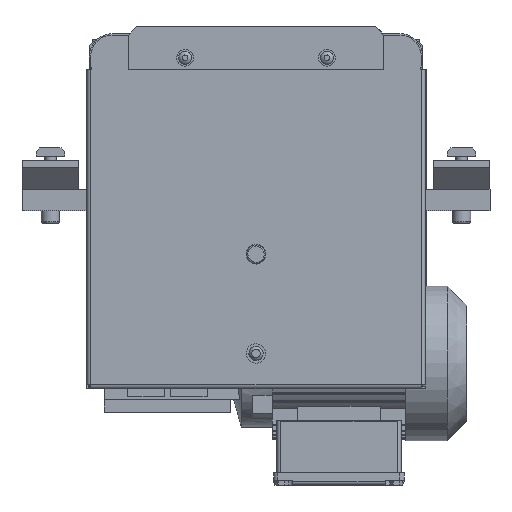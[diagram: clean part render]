
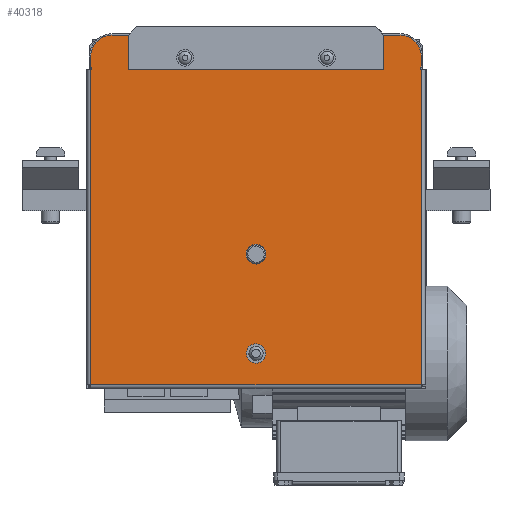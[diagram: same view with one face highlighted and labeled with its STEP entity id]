
A CAD part, front view. The second image highlights one B-rep face of the part: STEP entity #40318.
In plain terms, the highlighted planar face has unit normal (0, -1, 0).
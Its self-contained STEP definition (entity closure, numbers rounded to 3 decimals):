
#1312=LINE('',#60435,#5152);
#1315=LINE('',#60440,#5155);
#1317=LINE('',#60444,#5157);
#1319=LINE('',#60447,#5159);
#1640=LINE('',#61383,#5480);
#1641=LINE('',#61387,#5481);
#1642=LINE('',#61389,#5482);
#1643=LINE('',#61391,#5483);
#1644=LINE('',#61395,#5484);
#1645=LINE('',#61398,#5485);
#5152=VECTOR('',#48457,180.);
#5155=VECTOR('',#48462,15.);
#5157=VECTOR('',#48466,180.);
#5159=VECTOR('',#48470,15.);
#5480=VECTOR('',#49239,7.5);
#5481=VECTOR('',#49242,222.5);
#5482=VECTOR('',#49243,233.);
#5483=VECTOR('',#49244,222.5);
#5484=VECTOR('',#49247,7.5);
#5485=VECTOR('',#49250,203.);
#8927=FACE_BOUND('',#12190,.T.);
#8928=FACE_BOUND('',#12191,.T.);
#8929=FACE_BOUND('',#12192,.T.);
#9875=FACE_OUTER_BOUND('',#12189,.T.);
#12189=EDGE_LOOP('',(#28665,#28666,#28667,#28668,#28669,#28670,#28671,#28672,
#28673,#28674));
#12190=EDGE_LOOP('',(#28675,#28676,#28677,#28678));
#12191=EDGE_LOOP('',(#28679));
#12192=EDGE_LOOP('',(#28680));
#14157=CIRCLE('',#42713,6.8);
#14235=CIRCLE('',#42901,15.);
#14236=CIRCLE('',#42902,0.75);
#14237=CIRCLE('',#42903,0.75);
#14238=CIRCLE('',#42904,15.);
#14239=CIRCLE('',#42905,7.);
#16476=VERTEX_POINT('',#60433);
#16477=VERTEX_POINT('',#60434);
#16478=VERTEX_POINT('',#60439);
#16479=VERTEX_POINT('',#60443);
#16513=VERTEX_POINT('',#60545);
#16812=VERTEX_POINT('',#61379);
#16813=VERTEX_POINT('',#61380);
#16814=VERTEX_POINT('',#61382);
#16815=VERTEX_POINT('',#61384);
#16816=VERTEX_POINT('',#61386);
#16817=VERTEX_POINT('',#61388);
#16818=VERTEX_POINT('',#61390);
#16819=VERTEX_POINT('',#61392);
#16820=VERTEX_POINT('',#61394);
#16821=VERTEX_POINT('',#61396);
#16822=VERTEX_POINT('',#61399);
#20782=EDGE_CURVE('',#16476,#16477,#1312,.T.);
#20785=EDGE_CURVE('',#16478,#16476,#1315,.T.);
#20787=EDGE_CURVE('',#16479,#16478,#1317,.T.);
#20789=EDGE_CURVE('',#16477,#16479,#1319,.T.);
#20832=EDGE_CURVE('',#16513,#16513,#14157,.T.);
#21227=EDGE_CURVE('',#16812,#16813,#14235,.T.);
#21228=EDGE_CURVE('',#16813,#16814,#1640,.T.);
#21229=EDGE_CURVE('',#16814,#16815,#14236,.T.);
#21230=EDGE_CURVE('',#16815,#16816,#1641,.T.);
#21231=EDGE_CURVE('',#16816,#16817,#1642,.T.);
#21232=EDGE_CURVE('',#16817,#16818,#1643,.T.);
#21233=EDGE_CURVE('',#16818,#16819,#14237,.T.);
#21234=EDGE_CURVE('',#16819,#16820,#1644,.T.);
#21235=EDGE_CURVE('',#16820,#16821,#14238,.T.);
#21236=EDGE_CURVE('',#16812,#16821,#1645,.T.);
#21237=EDGE_CURVE('',#16822,#16822,#14239,.T.);
#28665=ORIENTED_EDGE('',*,*,#21227,.T.);
#28666=ORIENTED_EDGE('',*,*,#21228,.T.);
#28667=ORIENTED_EDGE('',*,*,#21229,.T.);
#28668=ORIENTED_EDGE('',*,*,#21230,.T.);
#28669=ORIENTED_EDGE('',*,*,#21231,.T.);
#28670=ORIENTED_EDGE('',*,*,#21232,.T.);
#28671=ORIENTED_EDGE('',*,*,#21233,.T.);
#28672=ORIENTED_EDGE('',*,*,#21234,.T.);
#28673=ORIENTED_EDGE('',*,*,#21235,.T.);
#28674=ORIENTED_EDGE('',*,*,#21236,.F.);
#28675=ORIENTED_EDGE('',*,*,#20782,.T.);
#28676=ORIENTED_EDGE('',*,*,#20789,.T.);
#28677=ORIENTED_EDGE('',*,*,#20787,.T.);
#28678=ORIENTED_EDGE('',*,*,#20785,.T.);
#28679=ORIENTED_EDGE('',*,*,#20832,.T.);
#28680=ORIENTED_EDGE('',*,*,#21237,.T.);
#36785=PLANE('',#42900);
#40318=ADVANCED_FACE('',(#9875,#8927,#8928,#8929),#36785,.T.);
#42713=AXIS2_PLACEMENT_3D('',#60546,#48570,#48571);
#42900=AXIS2_PLACEMENT_3D('',#61378,#49235,#49236);
#42901=AXIS2_PLACEMENT_3D('',#61381,#49237,#49238);
#42902=AXIS2_PLACEMENT_3D('',#61385,#49240,#49241);
#42903=AXIS2_PLACEMENT_3D('',#61393,#49245,#49246);
#42904=AXIS2_PLACEMENT_3D('',#61397,#49248,#49249);
#42905=AXIS2_PLACEMENT_3D('',#61400,#49251,#49252);
#48457=DIRECTION('',(1.,0.,0.));
#48462=DIRECTION('',(0.,0.,1.));
#48466=DIRECTION('',(-1.,0.,0.));
#48470=DIRECTION('',(0.,0.,-1.));
#48570=DIRECTION('center_axis',(0.,1.,0.));
#48571=DIRECTION('ref_axis',(-0.536,0.,-0.844));
#49235=DIRECTION('center_axis',(0.,-1.,0.));
#49236=DIRECTION('ref_axis',(-1.,0.,0.));
#49237=DIRECTION('center_axis',(0.,-1.,0.));
#49238=DIRECTION('ref_axis',(1.,0.,0.));
#49239=DIRECTION('',(0.,0.,-1.));
#49240=DIRECTION('center_axis',(0.,1.,0.));
#49241=DIRECTION('ref_axis',(0.,0.,
-1.));
#49242=DIRECTION('',(0.,0.,-1.));
#49243=DIRECTION('',(1.,0.,0.));
#49244=DIRECTION('',(0.,0.,1.));
#49245=DIRECTION('center_axis',(0.,1.,0.));
#49246=DIRECTION('ref_axis',(0.,0.,
-1.));
#49247=DIRECTION('',(0.,0.,1.));
#49248=DIRECTION('center_axis',(0.,-1.,0.));
#49249=DIRECTION('ref_axis',(-1.,0.,0.));
#49250=DIRECTION('',(1.,0.,0.));
#49251=DIRECTION('center_axis',(0.,1.,0.));
#49252=DIRECTION('ref_axis',(-1.,0.,0.));
#60433=CARTESIAN_POINT('',(-90.,-159.,79.675));
#60434=CARTESIAN_POINT('',(90.,-159.,79.675));
#60435=CARTESIAN_POINT('',(-45.,-159.,79.675));
#60439=CARTESIAN_POINT('',(-90.,-159.,64.675));
#60440=CARTESIAN_POINT('',(-90.,-159.,21.813));
#60443=CARTESIAN_POINT('',(90.,-159.,64.675));
#60444=CARTESIAN_POINT('',(-45.,-159.,64.675));
#60447=CARTESIAN_POINT('',(90.,-159.,21.813));
#60545=CARTESIAN_POINT('',(-3.643,-159.,-141.542));
#60546=CARTESIAN_POINT('Origin',(0.,-159.,
-135.8));
#61378=CARTESIAN_POINT('Origin',(0.,-159.,
-36.05));
#61379=CARTESIAN_POINT('',(-101.5,-159.,88.7));
#61380=CARTESIAN_POINT('',(-116.5,-159.,73.7));
#61381=CARTESIAN_POINT('Origin',(-101.5,-159.,73.7));
#61382=CARTESIAN_POINT('',(-116.5,-159.,66.2));
#61383=CARTESIAN_POINT('',(-116.5,-159.,15.075));
#61384=CARTESIAN_POINT('',(-116.5,-159.,64.7));
#61385=CARTESIAN_POINT('Origin',(-116.5,-159.,65.45));
#61386=CARTESIAN_POINT('',(-116.5,-159.,-157.8));
#61387=CARTESIAN_POINT('',(-116.5,-159.,14.325));
#61388=CARTESIAN_POINT('',(116.5,-159.,-157.8));
#61389=CARTESIAN_POINT('',(-58.25,-159.,-157.8));
#61390=CARTESIAN_POINT('',(116.5,-159.,64.7));
#61391=CARTESIAN_POINT('',(116.5,-159.,-96.925));
#61392=CARTESIAN_POINT('',(116.5,-159.,66.2));
#61393=CARTESIAN_POINT('Origin',(116.5,-159.,65.45));
#61394=CARTESIAN_POINT('',(116.5,-159.,73.7));
#61395=CARTESIAN_POINT('',(116.5,-159.,15.075));
#61396=CARTESIAN_POINT('',(101.5,-159.,88.7));
#61397=CARTESIAN_POINT('Origin',(101.5,-159.,73.7));
#61398=CARTESIAN_POINT('',(-119.5,-159.,88.7));
#61399=CARTESIAN_POINT('',(-7.,-159.,-65.8));
#61400=CARTESIAN_POINT('Origin',(0.,-159.,
-65.8));
